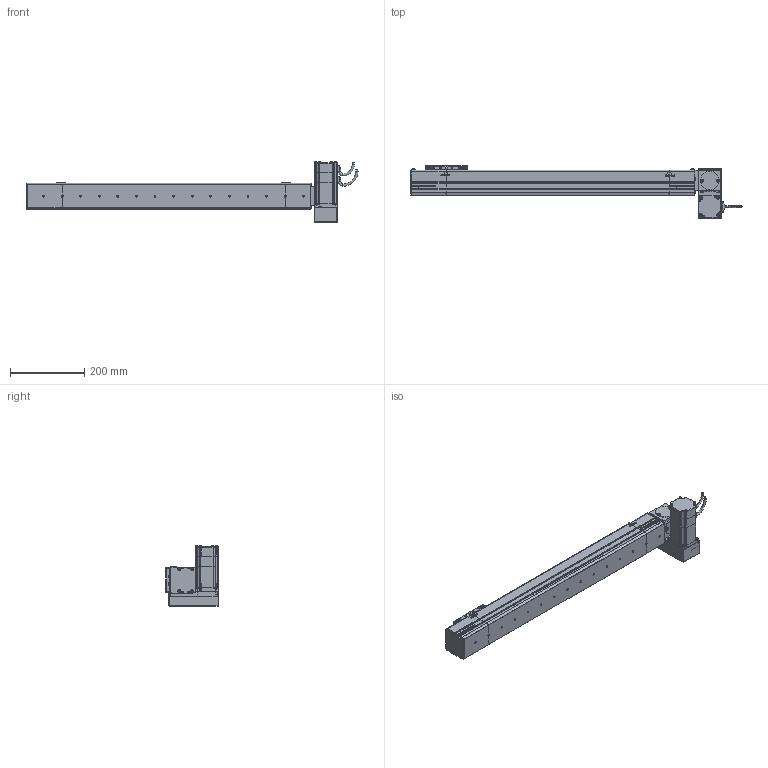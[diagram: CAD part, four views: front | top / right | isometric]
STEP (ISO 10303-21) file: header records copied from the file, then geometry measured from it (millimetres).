
FILE_DESCRIPTION (( 'STEP AP214' ), '1' );
FILE_NAME ('S07 CBN RU S600.STEP', '2010-06-29T09:47:36', ( 'Conseil Régional Haute-Normandie' ), ( 'Conseil Régional Haute-Normandie' ), 'SwSTEP 2.0', 'SolidWorks 2010', '' );
FILE_SCHEMA (( 'AUTOMOTIVE_DESIGN' ));
Length unit declared in the file: millimetre
Products named in the file (31): 60BLDC90A-640_Default; VisM3_Default; P3 90A_Default; P2 90A_Default; P1_Default; Conecteur 60BLDC_Default; Axe 60BLDC_Default; Conecteur2 60BLDC_Default; P4_Default; Corp S07 S600_Default; vis M5 L8_Default; support chariot_Default; Chariot S07_Default; vis M5 L15_Default; chariot_Default; plaque de serrage Tail_Default; Plaque de bout Tail_Default; Couvercle Tail_Default; Tail S07 Tail_Default; Couvercle S07 S600_Default; Corp Tail_Default; Corp RU_Default; Head RU_Default; S07 CBN RU S600; plaque de serrage RU_Default; Plaque de bout RU_Default; Couvercle RU_Default; Cache Support Moteur RU_Default; Support Moteur RU_Default; Rondelle de Serrage RU_Default
Assembly tree (71 placements, depth 4):
  S07 CBN RU S600
    Corp S07 S600_Default
      Couvercle S07 S600_Default
      Corp S07 S600_Default
    Head RU_Default
      vis M5 L15_Default  x16
      60BLDC90A-640_Default
        P3 90A_Default
        P4_Default
        Conecteur 60BLDC_Default
        VisM3_Default  x12
        P1_Default
        Conecteur2 60BLDC_Default
        P2 90A_Default
        Axe 60BLDC_Default
      Rondelle de Serrage RU_Default  x3
      Plaque de bout RU_Default
      plaque de serrage RU_Default
      Couvercle RU_Default
      Cache Support Moteur RU_Default
      Corp RU_Default
      Support Moteur RU_Default
    Chariot S07_Default
      vis M5 L8_Default  x8
      chariot_Default
      support chariot_Default
    Tail S07 Tail_Default
      Plaque de bout Tail_Default
      vis M5 L15_Default  x6
      Corp Tail_Default
      Couvercle Tail_Default
      plaque de serrage Tail_Default
Bounding box: 893.2 x 142 x 162 mm (x, y, z)
Volume: 4262648.9 mm3; surface area: 592241.4 mm2
Topology: 108 solids, 108 shells, 3886 faces, 9578 edges, 6164 vertices
Faces by surface type: plane 2248, bspline 756, cylinder 671, torus 112, cone 95, sphere 4
Entity records: 153193 total; most frequent: CARTESIAN_POINT 79565, ORIENTED_EDGE 14676, DIRECTION 10931, EDGE_CURVE 7338, VERTEX_POINT 4849, VECTOR 4769, LINE 4769, EDGE_LOOP 3141
